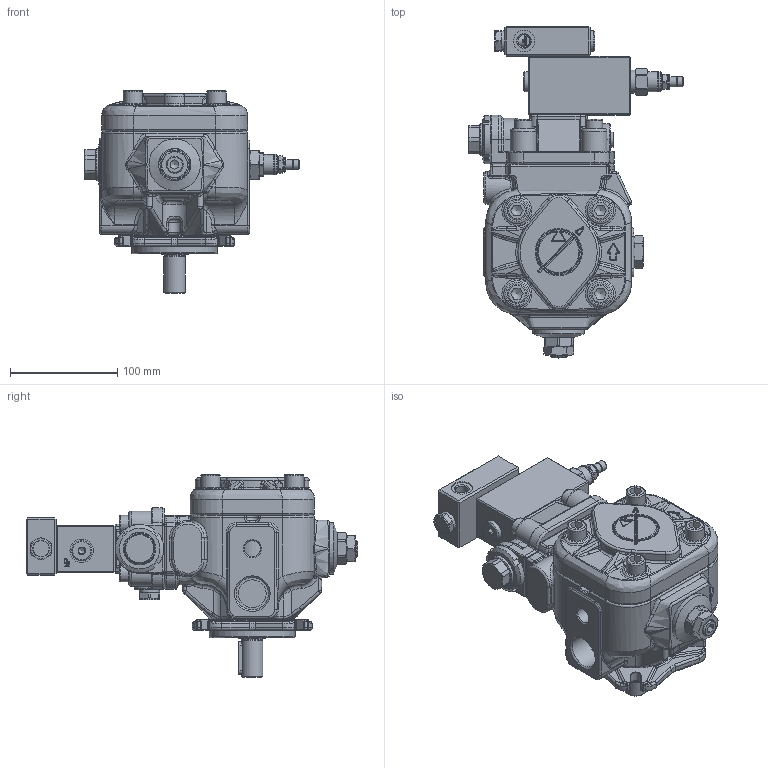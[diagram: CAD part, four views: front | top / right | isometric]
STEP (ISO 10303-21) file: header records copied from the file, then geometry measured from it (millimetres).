
FILE_DESCRIPTION(/* description */ (''),/* implementation_level */ '2;1');
FILE_NAME(/* name */ 'W:\Tecnico\Archivio\Berarma\Dimensioni Pompe\3D Export\Montaggio 3D semplificato\PLP-PHP 05\PHP05 FHRM PCLS001.stp',/* time_stamp */ '2018-10-10T15:18:11+02:00',/* author */ ('marcop'),/* organization */ (''),/* preprocessor_version */ 'ST-DEVELOPER v17',/* originating_system */ 'Autodesk Inventor 2018',/* authorisation */ '');
FILE_SCHEMA (('AUTOMOTIVE_DESIGN { 1 0 10303 214 3 1 1 }'));
Products named in the file (1): PHP05_Shrinkwrap_1
Bounding box: 200.95 x 309.6 x 189 mm (x, y, z)
Volume: 2416976.4 mm3; surface area: 253363.4 mm2
Topology: 2 solids, 2 shells, 2518 faces, 6395 edges, 3891 vertices
Faces by surface type: plane 909, cylinder 542, bspline 442, torus 302, cone 268, sphere 55
Full cylindrical faces by diameter (mm): 1.7 x4, 2.5 x1, 3 x1, 4 x4, 5 x7, 6 x4, 6.5 x2, 7.2 x13, 7.671 x2, 8 x1, 8.5 x8, 9 x8, 9.347 x2, 9.5 x1, 11.445 x4, 12 x3, 13 x1, 13.487 x1, 13.5 x1, 13.767 x2, 14 x3, 14.5 x1, 14.63 x1, 14.95 x1, 15 x2, 15.5 x2, 16 x7, 16.376 x1, 16.5 x4, 17 x1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
Entity records: 93366 total; most frequent: CARTESIAN_POINT 32961, ORIENTED_EDGE 12586, DIRECTION 11689, EDGE_CURVE 6293, AXIS2_PLACEMENT_3D 4667, VERTEX_POINT 3891, EDGE_LOOP 2697, CIRCLE 2548
